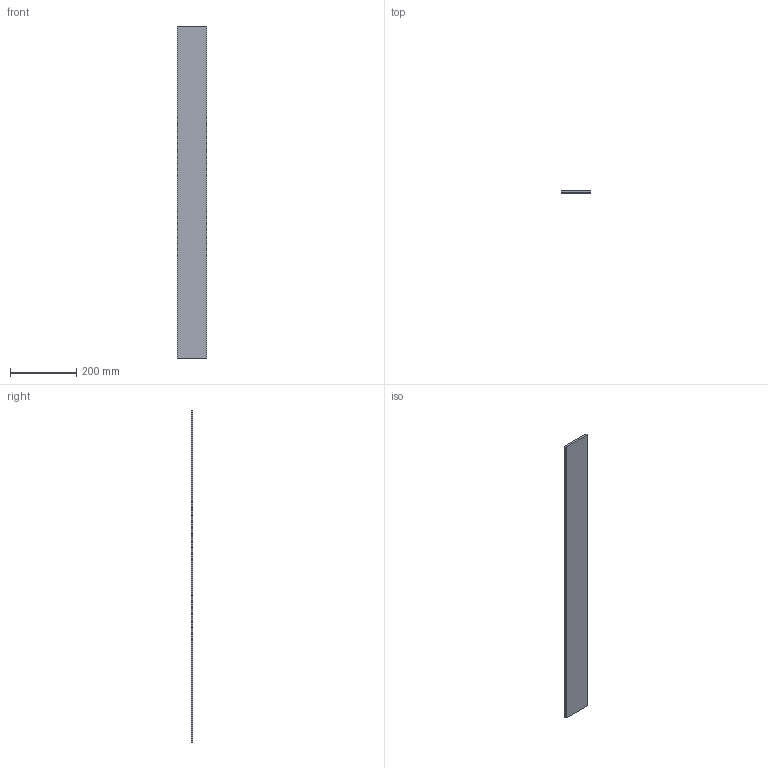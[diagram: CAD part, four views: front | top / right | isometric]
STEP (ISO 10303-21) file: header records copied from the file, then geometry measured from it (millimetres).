
FILE_DESCRIPTION(/* description */ (''),/* implementation_level */ '2;1');
FILE_NAME(/* name */ 'C:\Users\AMS43\Documents\Inventor\AMS\misumi\\X2\30B930DA30B730E330EB30D530EC30FC30E0\X0\_ipt\\X2\30B930DA30B730E330EB30D530EC30FC30E0\X0\_stp\AFFB-09005.ipt.stp',/* time_stamp */ '2016-10-06T11:40:23+09:00',/* author */ ('AMS43'),/* organization */ (''),/* preprocessor_version */ 'ST-DEVELOPER v15.2',/* originating_system */ 'Autodesk Inventor 2014',/* authorisation */ '');
FILE_SCHEMA (('AUTOMOTIVE_DESIGN { 1 0 10303 214 3 1 1 }'));
Length unit declared in the file: metre
Products named in the file (1): AFFB-09005
Bounding box: 90 x 5 x 1000 mm (x, y, z)
Volume: 450000 mm3; surface area: 190900 mm2
Topology: 1 solids, 1 shells, 6 faces, 12 edges, 8 vertices
Faces by surface type: plane 6
Entity records: 187 total; most frequent: CARTESIAN_POINT 27, DIRECTION 26, ORIENTED_EDGE 24, LINE 12, VECTOR 12, EDGE_CURVE 12, VERTEX_POINT 8, AXIS2_PLACEMENT_3D 7
